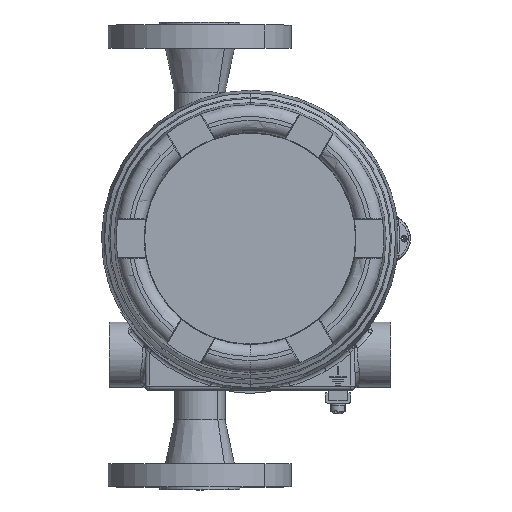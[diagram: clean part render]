
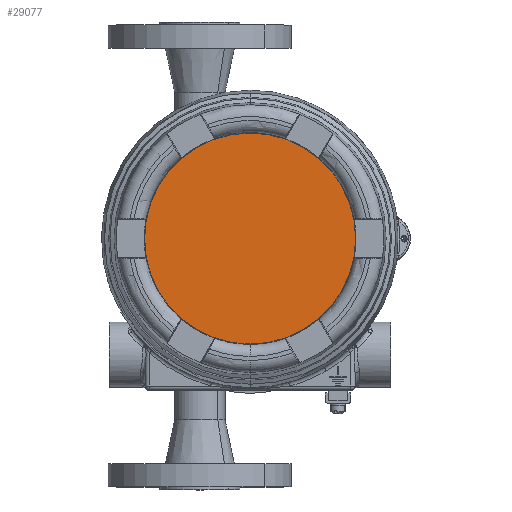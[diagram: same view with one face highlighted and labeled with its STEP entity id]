
A CAD part, top view. The second image highlights one B-rep face of the part: STEP entity #29077.
In plain terms, the highlighted planar face has unit normal (0, 0, 1).
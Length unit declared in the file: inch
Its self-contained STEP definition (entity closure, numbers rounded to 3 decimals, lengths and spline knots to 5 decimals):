
#645 = EDGE_CURVE ( 'NONE', #8818, #4422, #12239, .T. ) ;
#2490 = AXIS2_PLACEMENT_3D ( 'NONE', #32864, #18140, #9367 ) ;
#3562 = AXIS2_PLACEMENT_3D ( 'NONE', #27388, #30081, #30452 ) ;
#4422 = VERTEX_POINT ( 'NONE', #30258 ) ;
#4910 = ORIENTED_EDGE ( 'NONE', *, *, #645, .T. ) ;
#8818 = VERTEX_POINT ( 'NONE', #13826 ) ;
#9367 = DIRECTION ( 'NONE',  ( 1., 0., 0. ) ) ;
#12239 = CIRCLE ( 'NONE', #2490, 2.536 ) ;
#13826 = CARTESIAN_POINT ( 'NONE',  ( -2.536, 0., 0. ) ) ;
#18140 = DIRECTION ( 'NONE',  ( 0., 0., 1. ) ) ;
#18801 = AXIS2_PLACEMENT_3D ( 'NONE', #33819, #25554, #28440 ) ;
#19419 = CIRCLE ( 'NONE', #18801, 2.536 ) ;
#22704 = EDGE_LOOP ( 'NONE', ( #4910, #29824 ) ) ;
#25554 = DIRECTION ( 'NONE',  ( 0., 0., 1. ) ) ;
#26781 = EDGE_CURVE ( 'NONE', #4422, #8818, #19419, .T. ) ;
#27388 = CARTESIAN_POINT ( 'NONE',  ( 0., 0., 0. ) ) ;
#28440 = DIRECTION ( 'NONE',  ( 1., 0., 0. ) ) ;
#29077 = ADVANCED_FACE ( 'NONE', ( #35834 ), #32948, .T. ) ;
#29824 = ORIENTED_EDGE ( 'NONE', *, *, #26781, .T. ) ;
#30081 = DIRECTION ( 'NONE',  ( 0., 0., 1. ) ) ;
#30258 = CARTESIAN_POINT ( 'NONE',  ( 2.536, 0., 0. ) ) ;
#30452 = DIRECTION ( 'NONE',  ( 1., 0., 0. ) ) ;
#32864 = CARTESIAN_POINT ( 'NONE',  ( 0., 0., 0. ) ) ;
#32948 = PLANE ( 'NONE',  #3562 ) ;
#33819 = CARTESIAN_POINT ( 'NONE',  ( 0., 0., 0. ) ) ;
#35834 = FACE_OUTER_BOUND ( 'NONE', #22704, .T. ) ;
